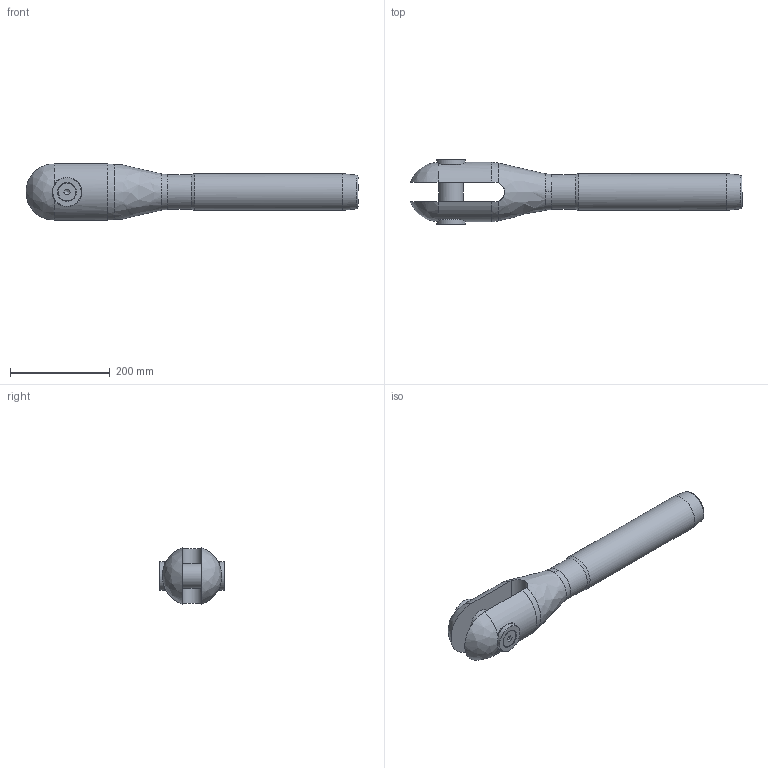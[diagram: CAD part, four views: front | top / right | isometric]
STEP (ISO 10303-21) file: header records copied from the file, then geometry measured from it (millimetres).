
FILE_DESCRIPTION(/* description */ (''),/* implementation_level */ '2;1');
FILE_NAME(/* name */ 'MAC 36_1,4418',/* time_stamp */ '2023-05-23T16:54:58+02:00',/* author */ (''),/* organization */ (''),/* preprocessor_version */ 'ST-DEVELOPER v16.5',/* originating_system */ 'Rhino 7.22',/* authorisation */ '');
FILE_SCHEMA (('CONFIG_CONTROL_DESIGN'));
Length unit declared in the file: millimetre
Products named in the file (1): Document
Bounding box: 665.19 x 130.04 x 112.43 mm (x, y, z)
Volume: 3386901.5 mm3; surface area: 263214.2 mm2
Topology: 6 solids, 6 shells, 75 faces, 209 edges, 144 vertices
Faces by surface type: plane 29, bspline 24, cylinder 22
Full cylindrical faces by diameter (mm): 17.294 x2, 20 x2, 21 x2, 35.4 x2, 50 x1, 52 x2, 58 x2, 70 x1, 73.5 x1
Entity records: 3166 total; most frequent: CARTESIAN_POINT 1823, ORIENTED_EDGE 410, EDGE_CURVE 205, VERTEX_POINT 144, EDGE_LOOP 85, B_SPLINE_CURVE_WITH_KNOTS 84, ADVANCED_FACE 75, FACE_OUTER_BOUND 75
